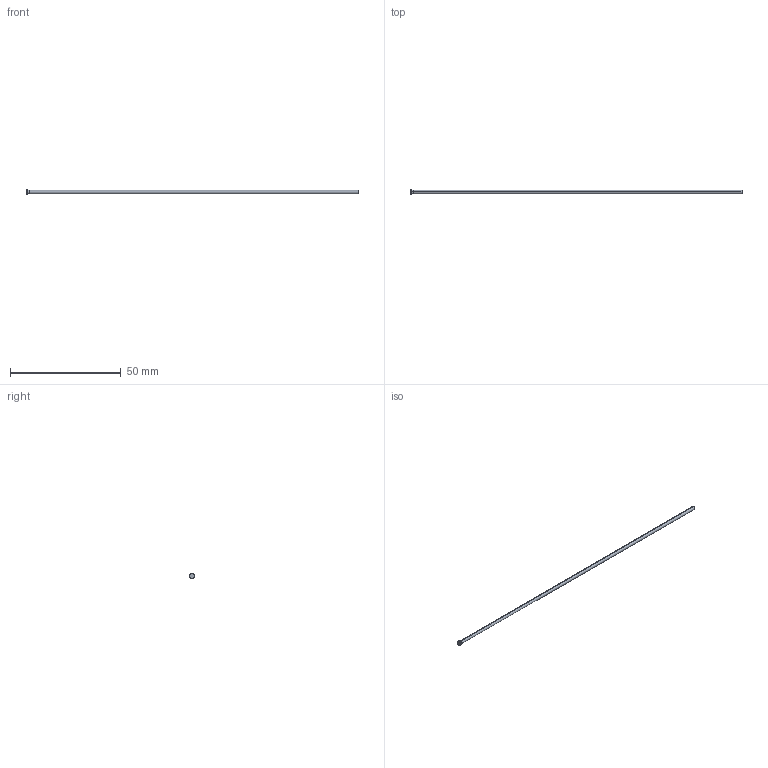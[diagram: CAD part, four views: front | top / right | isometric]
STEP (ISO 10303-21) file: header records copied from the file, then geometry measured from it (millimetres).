
FILE_DESCRIPTION (( 'STEP AP214' ), '1' );
FILE_NAME ('D-1,5x150.STEP', '2020-06-08T09:20:35', ( 'August' ), ( '' ), 'SwSTEP 2.0', 'SolidWorks 2018', '' );
FILE_SCHEMA (( 'AUTOMOTIVE_DESIGN' ));
Length unit declared in the file: millimetre
Products named in the file (1): D-1,5x150
Bounding box: 150 x 2.2 x 2.2 mm (x, y, z)
Volume: 266.7 mm3; surface area: 714.7 mm2
Topology: 1 solids, 1 shells, 10 faces, 18 edges, 10 vertices
Faces by surface type: cylinder 4, torus 2, cone 2, plane 2
Entity records: 280 total; most frequent: DIRECTION 52, CARTESIAN_POINT 39, ORIENTED_EDGE 36, AXIS2_PLACEMENT_3D 23, EDGE_CURVE 18, CIRCLE 12, VERTEX_POINT 10, EDGE_LOOP 10
